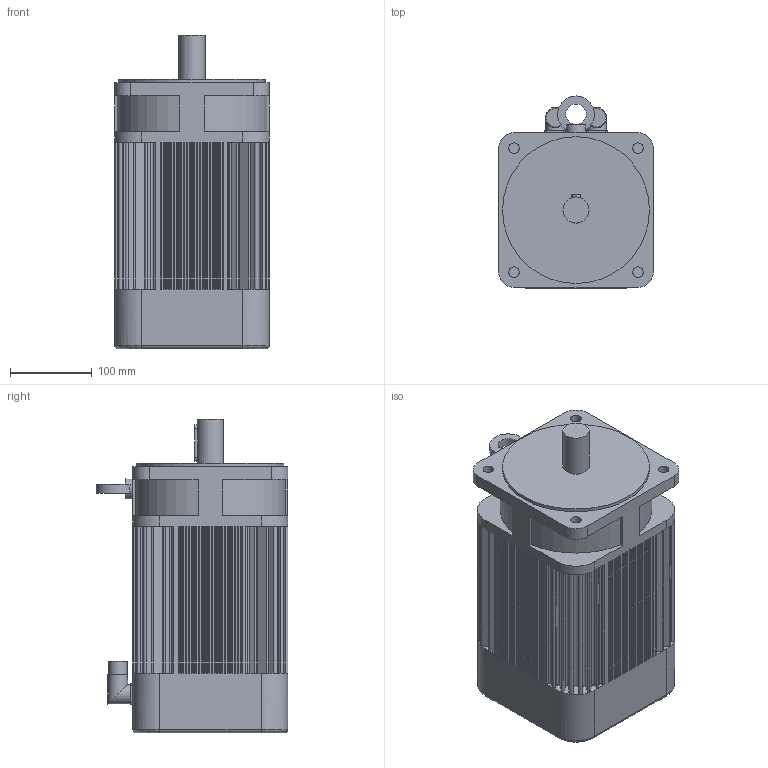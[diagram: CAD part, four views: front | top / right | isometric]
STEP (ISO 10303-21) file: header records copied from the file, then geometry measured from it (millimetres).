
FILE_DESCRIPTION(/* description */ (''),/* implementation_level */ '2;1');
FILE_NAME(/* name */ '\\Lafnas01\disegni\Archivi Lafert\3D\CAD 3D\MODELLI\Assiemi clienti\Serad\Modelli 3D Serad\B100I\Encoder\Enc Without Brake\B1030Ixx6ARx2033.ipt.stp',/* time_stamp */ '2015-09-07T10:47:30+02:00',/* author */ ('Pastrello Ylenia'),/* organization */ (''),/* preprocessor_version */ 'ST-DEVELOPER v15.6',/* originating_system */ 'Autodesk Inventor 2015',/* authorisation */ '');
FILE_SCHEMA (('AUTOMOTIVE_DESIGN { 1 0 10303 214 3 1 1 }'));
Length unit declared in the file: millimetre
Products named in the file (1): B1030Ixx6ARx2033
Bounding box: 190 x 235 x 384 mm (x, y, z)
Volume: 10951906.2 mm3; surface area: 439844.4 mm2
Topology: 1 solids, 1 shells, 608 faces, 1497 edges, 980 vertices
Faces by surface type: plane 499, cylinder 105, torus 4
Full cylindrical faces by diameter (mm): 13 x4, 22.7 x2, 24 x2, 25 x2, 32 x1, 180 x1
Entity records: 17791 total; most frequent: CARTESIAN_POINT 3128, DIRECTION 2992, ORIENTED_EDGE 2962, EDGE_CURVE 1481, LINE 1180, VECTOR 1180, VERTEX_POINT 977, AXIS2_PLACEMENT_3D 906
